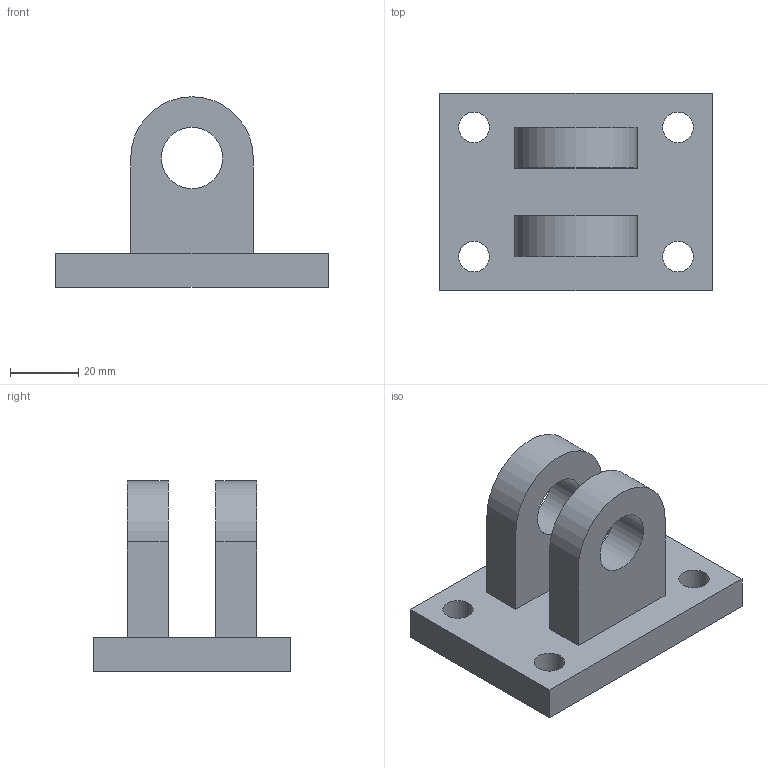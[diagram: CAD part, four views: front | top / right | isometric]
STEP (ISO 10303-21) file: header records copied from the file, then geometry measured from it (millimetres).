
FILE_DESCRIPTION(('FreeCAD Model'),'2;1');
FILE_NAME('Open CASCADE Shape Model','2026-11-03T10:07:26',('FreeCAD'),( 'FreeCAD'),'Open CASCADE STEP processor 7.8','FreeCAD','Unknown');
FILE_SCHEMA(('AUTOMOTIVE_DESIGN { 1 0 10303 214 1 1 1 1 }'));
Length unit declared in the file: millimetre
Products named in the file (1): Open CASCADE STEP translator 7.8 4
Bounding box: 80 x 58 x 56 mm (x, y, z)
Volume: 74154.6 mm3; surface area: 20906.2 mm2
Topology: 1 solids, 1 shells, 22 faces, 58 edges, 40 vertices
Faces by surface type: plane 14, cylinder 8
Full cylindrical faces by diameter (mm): 9 x4, 18 x2
Entity records: 728 total; most frequent: DIRECTION 124, CARTESIAN_POINT 121, ORIENTED_EDGE 116, EDGE_CURVE 58, AXIS2_PLACEMENT_3D 43, VERTEX_POINT 40, LINE 38, VECTOR 38
